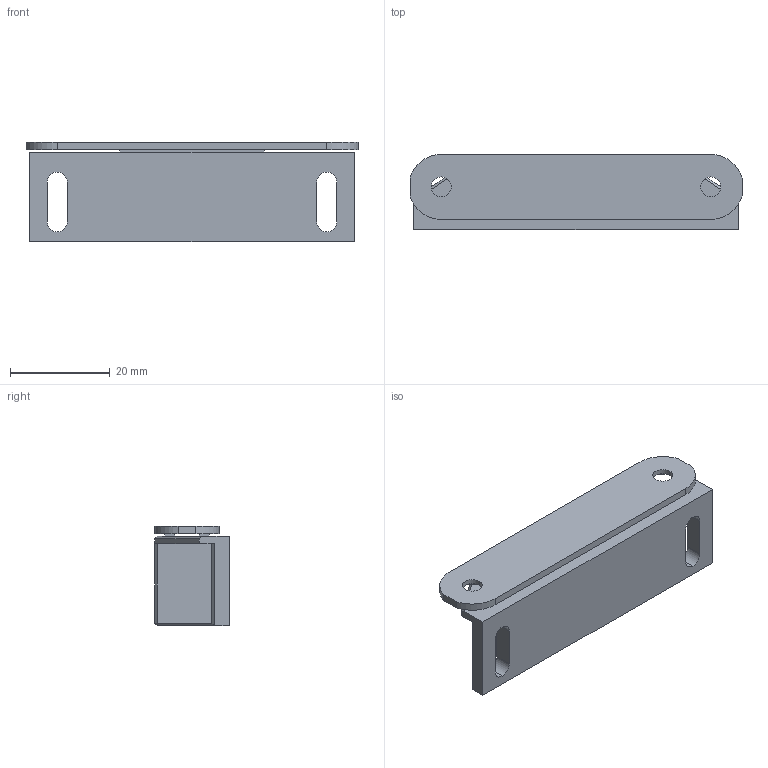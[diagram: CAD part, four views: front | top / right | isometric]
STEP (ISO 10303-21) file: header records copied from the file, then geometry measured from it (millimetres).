
FILE_DESCRIPTION (( 'STEP AP203' ), '1' );
FILE_NAME ('1.26.21.0001-battente-magnetico-bianco-Milper.STEP', '2019-05-03T07:06:56', ( '' ), ( '' ), 'SwSTEP 2.0', 'SolidWorks 2019', '' );
FILE_SCHEMA (( 'CONFIG_CONTROL_DESIGN' ));
Length unit declared in the file: millimetre
Products named in the file (1): 1.26.21.0001-battente-magnetico-bianco-Milper
Bounding box: 66.5 x 15 x 20 mm (x, y, z)
Volume: 13466.6 mm3; surface area: 6470.9 mm2
Topology: 2 solids, 2 shells, 66 faces, 164 edges, 104 vertices
Faces by surface type: plane 48, cylinder 14, cone 4
Entity records: 2023 total; most frequent: CARTESIAN_POINT 335, DIRECTION 330, ORIENTED_EDGE 328, EDGE_CURVE 164, VECTOR 132, LINE 132, VERTEX_POINT 104, AXIS2_PLACEMENT_3D 99
